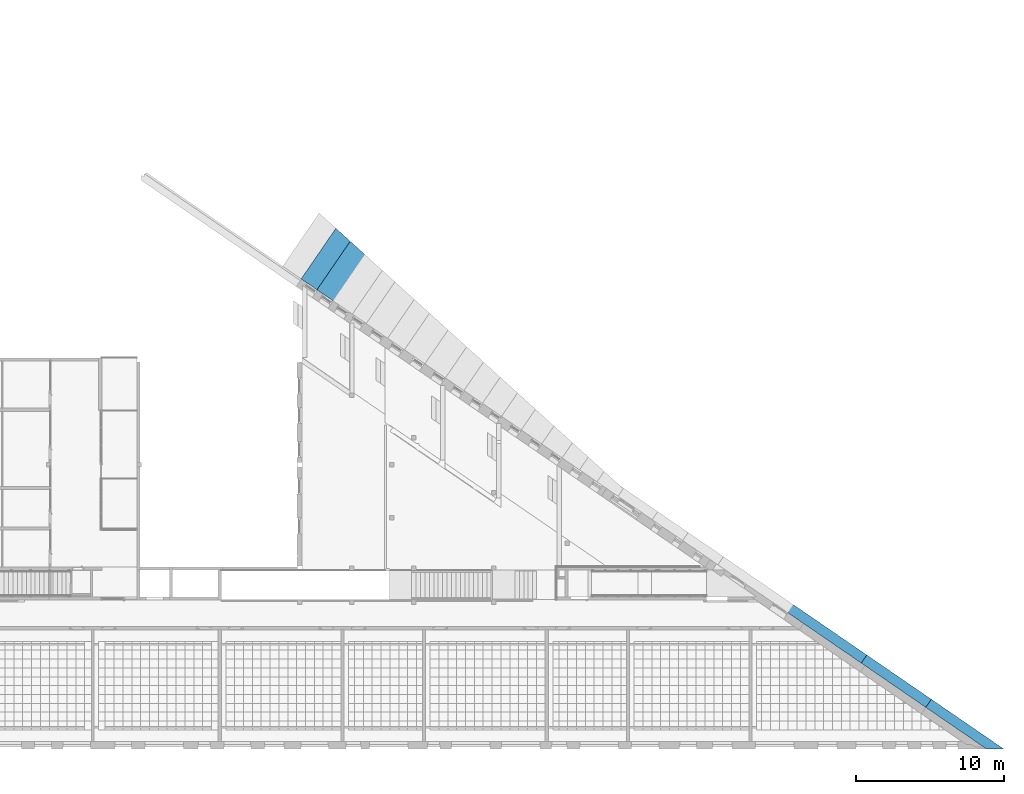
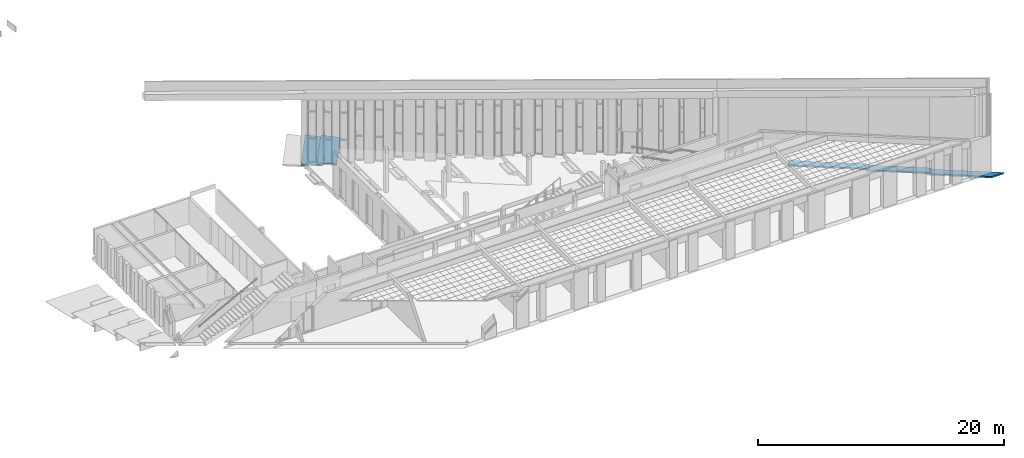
# One storey, part 49 of 79: 5 stairs.
"""IFC2X3 building model written with IfcOpenShell, lengths in millimetres."""

from ifc_helpers import new_model, entity, si_unit, converted_unit, derived_unit, money_unit, direction, frame, origin_with_axes, place, context, subcontext, project, spatial, faceted_brep, material, element, save


model = new_model("IFC2X3")

# Units and contexts
model_context = context("Model", 3, precision=0.01, world=origin_with_axes(), true_north=direction((0.0, 1.0)))
body_context = subcontext(model_context, "Body", "Model", "MODEL_VIEW")
ifc_project = project(units=[si_unit("LENGTHUNIT", "METRE", prefix="MILLI"), si_unit("AREAUNIT", "SQUARE_METRE"), si_unit("VOLUMEUNIT", "CUBIC_METRE"), converted_unit("PLANEANGLEUNIT", "DEGREE", entity("IfcPlaneAngleMeasure", 0.0174532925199), si_unit("PLANEANGLEUNIT", "RADIAN"), dimensions=[0, 0, 0, 0, 0, 0, 0]), si_unit("SOLIDANGLEUNIT", "STERADIAN"), money_unit("EUR"), converted_unit("TIMEUNIT", "Year", entity("IfcTimeMeasure", 31556926.0), si_unit("TIMEUNIT", "SECOND"), dimensions=[0, 0, 1, 0, 0, 0, 0]), si_unit("MASSUNIT", "GRAM", prefix="KILO"), si_unit("THERMODYNAMICTEMPERATUREUNIT", "DEGREE_CELSIUS"), si_unit("LUMINOUSINTENSITYUNIT", "LUMEN"), si_unit("ENERGYUNIT", "JOULE", prefix="MEGA"), derived_unit("THERMALCONDUCTANCEUNIT", [(si_unit("POWERUNIT", "WATT"), 1), (si_unit("LENGTHUNIT", "METRE"), -1), (si_unit("THERMODYNAMICTEMPERATUREUNIT", "KELVIN"), -1)]), derived_unit("SPECIFICHEATCAPACITYUNIT", [(si_unit("ENERGYUNIT", "JOULE"), 1), (si_unit("MASSUNIT", "GRAM", prefix="KILO"), -1), (si_unit("THERMODYNAMICTEMPERATUREUNIT", "KELVIN"), -1)]), derived_unit("MASSDENSITYUNIT", [(si_unit("MASSUNIT", "GRAM", prefix="KILO"), 1), (si_unit("VOLUMEUNIT", "CUBIC_METRE"), -1)])], contexts=[model_context])

# Site, building, storey
site_placement = place(None, origin_with_axes())
site = spatial("IfcSite", under=ifc_project, at=site_placement, Name="L.Koidula tn 11b", CompositionType="ELEMENT")
building_placement = place(site_placement, origin_with_axes())
building = spatial("IfcBuilding", under=site, at=building_placement, Name="Rakvere Riigigümnaasium", CompositionType="ELEMENT")
storey_placement = place(building_placement, frame((0.0, 0.0, 3720.0), z_axis=(0.0, 0.0, 1.0), x_axis=(1.0, 0.0, 0.0)))
storey = spatial("IfcBuildingStorey", under=building, at=storey_placement, Name="2.korrus +3,72", CompositionType="ELEMENT", Elevation=3720.0)

# Stairs
ifc_material = material(Name="Betoon")
stair_1_placement = place(storey_placement, frame((58116.3480621, 36839.9309574, -2219.79633169), z_axis=(0.0, 0.0, 1.0), x_axis=(1.0, 0.0, 0.0)))
element("IfcStair", 1, at=stair_1_placement, inside=storey, material=ifc_material, Name="Astmestik-2", ShapeType="NOTDEFINED", context=body_context, shape_type="Brep", body=[
    faceted_brep([(0.0, 0.0, 0.0), (0.0, 0.0, -150.0), (1319.58385657, -905.072817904, -150.0), (1319.58385657, -905.072817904, 0.0), (2353.55370766, 3431.44928978, 0.0), (2353.55370766, 3431.44928978, -150.0), (3550.17918199, 2347.1048232, -150.0), (3550.17918199, 2347.1048232, 0.0)], [[[0, 1, 2, 3]], [[4, 5, 1, 0]], [[2, 1, 5, 6]], [[3, 2, 6, 7]], [[4, 0, 3, 7]], [[7, 6, 5, 4]]]),
])
stair_2_placement = place(storey_placement, frame((59188.5320926, 36104.5441026, -2064.79633169), z_axis=(0.0, 0.0, 1.0), x_axis=(1.0, 0.0, 0.0)))
element("IfcStair", 2, at=stair_2_placement, inside=storey, material=ifc_material, Name="Astmestik-2", ShapeType="NOTDEFINED", context=body_context, shape_type="Brep", body=[
    faceted_brep([(0.0, 0.0, 0.0), (0.0, 0.0, -150.0), (1319.67151912, -905.132943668, -150.0), (1319.67151912, -905.132943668, 0.0), (2253.64795843, 3285.78806645, 0.0), (2253.64795843, 3285.78806645, -150.0), (3450.35292694, 2201.37156474, -150.0), (3450.35292694, 2201.37156474, 0.0)], [[[0, 1, 2, 3]], [[4, 5, 1, 0]], [[2, 1, 5, 6]], [[3, 2, 6, 7]], [[4, 0, 3, 7]], [[7, 6, 5, 4]]]),
])
stair_3_placement = place(storey_placement, frame((96306.7177216, 10646.0312089, -174.79633169), z_axis=(0.0, 0.0, 1.0), x_axis=(1.0, 0.0, 0.0)))
element("IfcStair", 3, at=stair_3_placement, inside=storey, material=ifc_material, Name="Astmestik-2", ShapeType="NOTDEFINED", context=body_context, shape_type="Brep", body=[
    faceted_brep([(0.0, 0.0, 0.0), (0.0, 0.0, -150.0), (376.028976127, 548.245131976, -150.0), (376.028976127, 548.245131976, 0.0), (-5459.12000457, 3744.28733817, 0.0), (-5459.12000457, 3744.28733817, -150.0), (-5083.09202448, 4292.53101793, -150.0), (-5083.09202448, 4292.53101793, 0.0)], [[[0, 1, 2, 3]], [[4, 5, 1, 0]], [[2, 1, 5, 6]], [[3, 2, 6, 7]], [[4, 0, 3, 7]], [[7, 6, 5, 4]]]),
])
stair_4_placement = place(storey_placement, frame((100430.048155, 7817.93182291, -299.796428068), z_axis=(0.0, 0.0, 1.0), x_axis=(1.0, 0.0, 0.0)))
element("IfcStair", 4, at=stair_4_placement, inside=storey, material=ifc_material, Name="Astmestik-2", ShapeType="NOTDEFINED", context=body_context, shape_type="Brep", body=[
    faceted_brep([(0.0, 0.0, 0.0), (0.0, 0.0, -150.0), (376.029728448, 548.24622885, -150.0), (376.029728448, 548.24622885, 0.0), (-4370.73025941, 2997.78534914, 0.0), (-4370.73025941, 2997.78534914, -150.0), (-3994.70132842, 3546.0304153, -150.0), (-3994.70132842, 3546.0304153, 0.0)], [[[0, 1, 2, 3]], [[4, 5, 1, 0]], [[2, 1, 5, 6]], [[3, 2, 6, 7]], [[4, 0, 3, 7]], [[7, 6, 5, 4]]]),
])
stair_5_placement = place(storey_placement, frame((104553.411354, 4989.80996345, -424.796428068), z_axis=(0.0, 0.0, 1.0), x_axis=(1.0, 0.0, 0.0)))
element("IfcStair", 5, at=stair_5_placement, inside=storey, material=ifc_material, Name="Astmestik-2", ShapeType="NOTDEFINED", context=body_context, shape_type="Brep", body=[
    faceted_brep([(0.0, 0.0, 0.0), (0.0, 0.0, -150.0), (1175.36807961, 0.0, -150.0), (1175.36807961, 0.0, 0.0), (-4370.76302544, 2997.80782262, 0.0), (-4370.76302544, 2997.80782262, -150.0), (-3994.73334213, 3546.05398565, -150.0), (-3994.73334213, 3546.05398565, 0.0)], [[[0, 1, 2, 3]], [[4, 5, 1, 0]], [[2, 1, 5, 6]], [[3, 2, 6, 7]], [[4, 0, 3, 7]], [[7, 6, 5, 4]]]),
])

save(model, "model.ifc")
